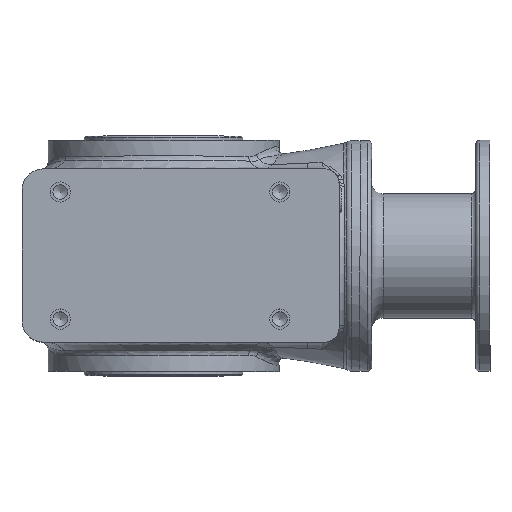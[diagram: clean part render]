
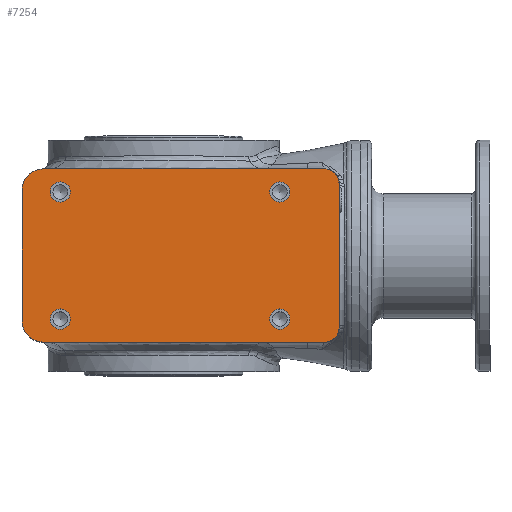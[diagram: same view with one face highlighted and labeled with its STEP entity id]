
A CAD part, front view. The second image highlights one B-rep face of the part: STEP entity #7254.
In plain terms, the highlighted planar face has unit normal (0, -1, 0.002).
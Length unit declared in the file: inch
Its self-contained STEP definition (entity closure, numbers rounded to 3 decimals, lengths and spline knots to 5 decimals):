
#750=FACE_BOUND('',#1722,.T.);
#751=FACE_BOUND('',#1723,.T.);
#752=FACE_BOUND('',#1724,.T.);
#753=FACE_BOUND('',#1725,.T.);
#1126=FACE_OUTER_BOUND('',#1721,.T.);
#1721=EDGE_LOOP('',(#5484,#5485,#5486,#5487,#5488,#5489,#5490,#5491));
#1722=EDGE_LOOP('',(#5492));
#1723=EDGE_LOOP('',(#5493));
#1724=EDGE_LOOP('',(#5494));
#1725=EDGE_LOOP('',(#5495));
#2247=LINE('',#13490,#2428);
#2253=LINE('',#16140,#2434);
#2256=LINE('',#16686,#2437);
#2257=LINE('',#16691,#2438);
#2428=VECTOR('',#9029,3.93701);
#2434=VECTOR('',#9165,3.54331);
#2437=VECTOR('',#9252,7.65748);
#2438=VECTOR('',#9257,7.65748);
#2757=CIRCLE('',#7927,0.3937);
#2758=CIRCLE('',#7929,0.59055);
#2759=CIRCLE('',#7930,0.59055);
#2760=CIRCLE('',#7931,0.3937);
#2761=CIRCLE('',#7932,0.27559);
#2762=CIRCLE('',#7933,0.27559);
#2763=CIRCLE('',#7934,0.27559);
#2764=CIRCLE('',#7935,0.27559);
#3229=VERTEX_POINT('',#13487);
#3230=VERTEX_POINT('',#13489);
#3304=VERTEX_POINT('',#16136);
#3306=VERTEX_POINT('',#16139);
#3350=VERTEX_POINT('',#16657);
#3351=VERTEX_POINT('',#16685);
#3352=VERTEX_POINT('',#16688);
#3353=VERTEX_POINT('',#16690);
#3354=VERTEX_POINT('',#16693);
#3355=VERTEX_POINT('',#16695);
#3356=VERTEX_POINT('',#16697);
#3357=VERTEX_POINT('',#16699);
#3975=EDGE_CURVE('',#3229,#3230,#2247,.T.);
#4087=EDGE_CURVE('',#3306,#3304,#2253,.T.);
#4147=EDGE_CURVE('',#3350,#3229,#2757,.T.);
#4149=EDGE_CURVE('',#3351,#3350,#2256,.T.);
#4150=EDGE_CURVE('',#3306,#3351,#2758,.T.);
#4151=EDGE_CURVE('',#3352,#3304,#2759,.T.);
#4152=EDGE_CURVE('',#3353,#3352,#2257,.T.);
#4153=EDGE_CURVE('',#3230,#3353,#2760,.T.);
#4154=EDGE_CURVE('',#3354,#3354,#2761,.T.);
#4155=EDGE_CURVE('',#3355,#3355,#2762,.T.);
#4156=EDGE_CURVE('',#3356,#3356,#2763,.T.);
#4157=EDGE_CURVE('',#3357,#3357,#2764,.T.);
#5484=ORIENTED_EDGE('',*,*,#4147,.F.);
#5485=ORIENTED_EDGE('',*,*,#4149,.F.);
#5486=ORIENTED_EDGE('',*,*,#4150,.F.);
#5487=ORIENTED_EDGE('',*,*,#4087,.T.);
#5488=ORIENTED_EDGE('',*,*,#4151,.F.);
#5489=ORIENTED_EDGE('',*,*,#4152,.F.);
#5490=ORIENTED_EDGE('',*,*,#4153,.F.);
#5491=ORIENTED_EDGE('',*,*,#3975,.F.);
#5492=ORIENTED_EDGE('',*,*,#4154,.T.);
#5493=ORIENTED_EDGE('',*,*,#4155,.T.);
#5494=ORIENTED_EDGE('',*,*,#4156,.T.);
#5495=ORIENTED_EDGE('',*,*,#4157,.T.);
#6489=PLANE('',#7928);
#7254=ADVANCED_FACE('',(#1126,#750,#751,#752,#753),#6489,.T.);
#7927=AXIS2_PLACEMENT_3D('',#16659,#9248,#9249);
#7928=AXIS2_PLACEMENT_3D('',#16684,#9250,#9251);
#7929=AXIS2_PLACEMENT_3D('',#16687,#9253,#9254);
#7930=AXIS2_PLACEMENT_3D('',#16689,#9255,#9256);
#7931=AXIS2_PLACEMENT_3D('',#16692,#9258,#9259);
#7932=AXIS2_PLACEMENT_3D('',#16694,#9260,#9261);
#7933=AXIS2_PLACEMENT_3D('',#16696,#9262,#9263);
#7934=AXIS2_PLACEMENT_3D('',#16698,#9264,#9265);
#7935=AXIS2_PLACEMENT_3D('',#16700,#9266,#9267);
#9029=DIRECTION('',(0.,-0.002,-1.));
#9165=DIRECTION('',(0.,-0.002,-1.));
#9248=DIRECTION('center_axis',(0.,1.,
-0.002));
#9249=DIRECTION('ref_axis',(0.707,0.002,0.707));
#9250=DIRECTION('center_axis',(0.,-1.,
0.002));
#9251=DIRECTION('ref_axis',(1.,0.,0.));
#9252=DIRECTION('',(1.,0.,0.));
#9253=DIRECTION('center_axis',(0.,1.,
-0.002));
#9254=DIRECTION('ref_axis',(-0.707,0.002,0.707));
#9255=DIRECTION('center_axis',(0.,1.,
-0.002));
#9256=DIRECTION('ref_axis',(-0.707,-0.002,-0.707));
#9257=DIRECTION('',(-1.,0.,0.));
#9258=DIRECTION('center_axis',(0.,1.,
-0.002));
#9259=DIRECTION('ref_axis',(0.707,-0.002,-0.707));
#9260=DIRECTION('center_axis',(0.,1.,
-0.002));
#9261=DIRECTION('ref_axis',(1.,0.,0.));
#9262=DIRECTION('center_axis',(0.,1.,
-0.002));
#9263=DIRECTION('ref_axis',(1.,0.,0.));
#9264=DIRECTION('center_axis',(0.,1.,
-0.002));
#9265=DIRECTION('ref_axis',(1.,0.,0.));
#9266=DIRECTION('center_axis',(0.,1.,
-0.002));
#9267=DIRECTION('ref_axis',(1.,0.,0.));
#13487=CARTESIAN_POINT('',(4.78238,-3.35107,1.80023));
#13489=CARTESIAN_POINT('',(4.78238,-3.3599,-2.13677));
#13490=CARTESIAN_POINT('',(4.78238,-3.35019,2.19393));
#16136=CARTESIAN_POINT('',(-3.85936,-3.35946,-1.93992));
#16139=CARTESIAN_POINT('',(-3.85936,-3.35151,1.60338));
#16140=CARTESIAN_POINT('',(-3.85936,-3.35548,-0.16827));
#16657=CARTESIAN_POINT('',(4.38868,-3.35019,2.19393));
#16659=CARTESIAN_POINT('Origin',(4.38868,-3.35107,1.80023));
#16684=CARTESIAN_POINT('Origin',(-4.21369,-3.35548,-0.16827));
#16685=CARTESIAN_POINT('',(-3.2688,-3.35019,2.19393));
#16686=CARTESIAN_POINT('',(3.92608,-3.35019,2.19393));
#16687=CARTESIAN_POINT('Origin',(-3.2688,-3.35151,1.60338));
#16688=CARTESIAN_POINT('',(-3.2688,-3.36078,-2.53047));
#16689=CARTESIAN_POINT('Origin',(-3.2688,-3.35946,-1.93992));
#16690=CARTESIAN_POINT('',(4.38868,-3.36078,-2.53047));
#16691=CARTESIAN_POINT('',(-4.21369,-3.36078,-2.53047));
#16692=CARTESIAN_POINT('Origin',(4.38868,-3.3599,-2.13677));
#16693=CARTESIAN_POINT('',(3.44379,-3.35937,-1.90055));
#16694=CARTESIAN_POINT('Origin',(3.1682,-3.35937,-1.90055));
#16695=CARTESIAN_POINT('',(3.44379,-3.3516,1.56401));
#16696=CARTESIAN_POINT('Origin',(3.1682,-3.3516,1.56401));
#16697=CARTESIAN_POINT('',(-2.54046,-3.3516,1.56401));
#16698=CARTESIAN_POINT('Origin',(-2.81605,-3.3516,1.56401));
#16699=CARTESIAN_POINT('',(-2.54046,-3.35937,-1.90055));
#16700=CARTESIAN_POINT('Origin',(-2.81605,-3.35937,-1.90055));
